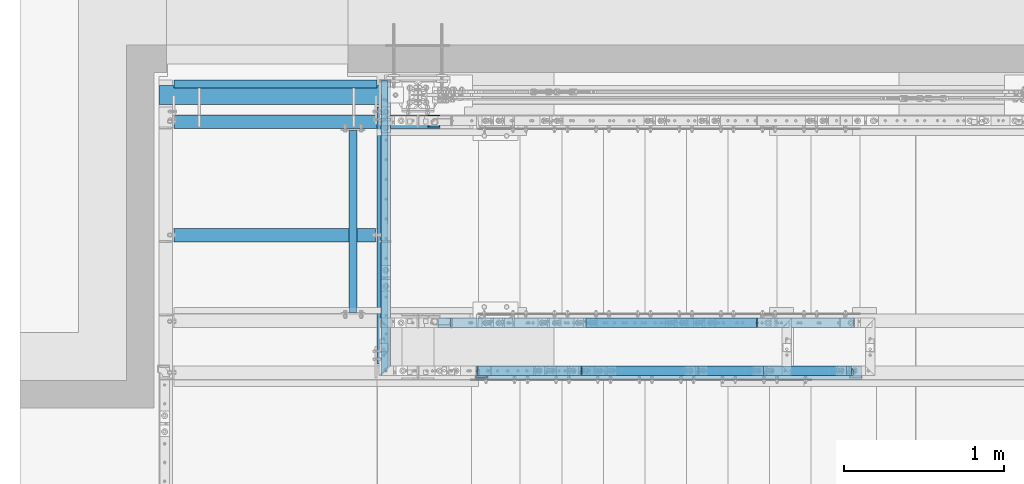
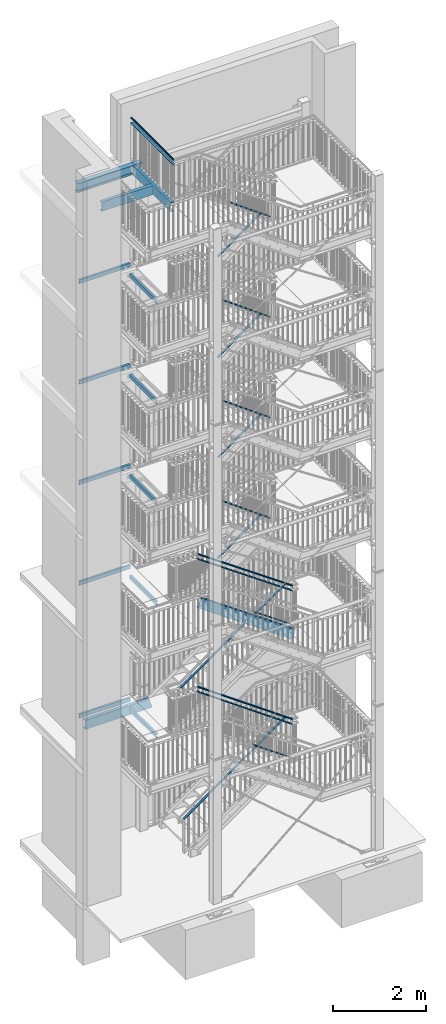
# One storey, part 126 of 831: 17 members, 16 beams, 43 openings.
"""IFC2X3 building model written with IfcOpenShell, lengths in millimetres."""

from ifc_helpers import new_model, entity, si_unit, converted_unit, frame, frame_2d, origin, origin_with_axes, origin_2d, origin_2d_with_axis, place, context, project, spatial, circle_curve, rectangle, circle, hollow_circle, i_section, u_section, outline, extrude, clip, halfspace, material, element, save


model = new_model("IFC2X3")

# Units and contexts
model_context = context("Model", 3, precision=1e-09, world=origin_with_axes())
ifc_project = project(units=[si_unit("LENGTHUNIT", "METRE", prefix="MILLI"), si_unit("AREAUNIT", "SQUARE_METRE"), si_unit("VOLUMEUNIT", "CUBIC_METRE"), converted_unit("PLANEANGLEUNIT", "DEGREE", entity("IfcPlaneAngleMeasure", 0.01745329), si_unit("PLANEANGLEUNIT", "RADIAN"), dimensions=[0, 0, 0, 0, 0, 0, 0])], contexts=[model_context])

# Site, building, storey
site_placement = place(None, origin_with_axes())
site = spatial("IfcSite", under=ifc_project, at=site_placement, Name="Site", CompositionType="ELEMENT")
building_placement = place(site_placement, origin_with_axes())
building = spatial("IfcBuilding", under=site, at=building_placement, Name="Struktur 1", CompositionType="ELEMENT")
storey_placement = place(building_placement, origin_with_axes())
storey = spatial("IfcBuildingStorey", under=building, at=storey_placement, Name="Default Storey", CompositionType="ELEMENT", Elevation=0.0)

# Beams
ifc_material = material(Name="S235JR")
for number, where, z_axis, x_axis, name in (
    (1, (4442.213402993, 6157.236971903, 15114.0), (0.0, -1.0, 0.0), (1.0, 0.0, 0.0), "Girder"),
    (2, (4442.213402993, 6157.236971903, 12479.0), (0.0, -1.0, 0.0), (1.0, 0.0, 0.0), "Girder"),
    (3, (4442.213402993, 6157.236971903, 9852.0), (0.0, -1.0, 0.0), (1.0, 0.0, 0.0), "Girder"),
    (4, (4442.213402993, 6157.236971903, 7220.0), (0.0, -1.0, 0.0), (1.0, 0.0, 0.0), "Girder"),
    (5, (4442.213402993, 6157.236971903, 3747.0), (0.0, -1.0, 0.0), (1.0, 0.0, 0.0), "Girder"),
):
    element("IfcBeam", number, at=place(None, frame(where, z_axis=z_axis, x_axis=x_axis)), inside=storey, material=ifc_material, Name=name, ObjectType="Girder", context=model_context, shape_type="SweptSolid", body=[
        extrude(u_section(Depth=100.0, FlangeWidth=50.0, WebThickness=6.0, FlangeThickness=8.5, FilletRadius=8.5, EdgeRadius=4.5, FlangeSlope=4.574, at=frame_2d((9.5, 0.0))), origin(), (0.0, 0.0, -1.0), 1139.0),
    ])
beam_1_placement = place(None, frame((4647.913402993, 5740.536971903, 18974.0), z_axis=(0.0, -1.0, 0.0), x_axis=(0.0, 0.0, -1.0)))
element("IfcBeam", 6, at=beam_1_placement, inside=storey, material=ifc_material, Name="Gel?nder", ObjectType="Gel?nder", context=model_context, shape_type="Clipping", body=[
    clip(extrude(hollow_circle(Radius=21.2, WallThickness=3.2, at=origin_2d()), origin(), (0.0, 0.0, -1.0), 1868.2), halfspace(frame((18974.0, -5215.425894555, 5173.024480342), z_axis=(0.0, -0.707106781, -0.707106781), x_axis=(0.0, -0.707106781, 0.707106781)), True)),
])
beam_2_placement = place(None, frame((4656.713402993, 5748.725345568, 18847.8), z_axis=(0.0, -1.0, 0.0), x_axis=(0.0, 0.0, -1.0)))
element("IfcBeam", 7, at=beam_2_placement, inside=storey, material=ifc_material, Name="Railing_Kneerail_Landing#1006", ObjectType="Railing_Kneerail_Landing#1006", context=model_context, shape_type="Clipping", body=[
    clip(extrude(rectangle(XDim=10.0, YDim=60.0, at=origin_2d()), origin(), (0.0, 0.0, -1.0), 1863.011626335), halfspace(frame((18847.8, -5224.225894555, 5181.212854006), z_axis=(0.0, -0.707106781, -0.707106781), x_axis=(0.0, -0.707106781, 0.707106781)), True)),
])

# Beam, openings
beam_3_placement = place(None, frame((3074.409632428, 7329.036971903, 3727.0), z_axis=(1.0, 0.0, 0.0), x_axis=(0.0, 1.0, 0.0)))
beam_3 = element("IfcBeam", 8, at=beam_3_placement, inside=storey, material=ifc_material, Name="BottomLanding#2", ObjectType="BottomLanding#2", context=model_context, shape_type="Clipping", body=[
    clip(clip(extrude(u_section(Depth=240.0, FlangeWidth=85.0, WebThickness=9.5, FlangeThickness=13.0, FilletRadius=13.0, EdgeRadius=6.5, FlangeSlope=4.574, at=frame_2d((20.2, 0.0))), origin(), (0.0, 0.0, 1.0), 2104.790555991), halfspace(frame((-7329.036971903, -3727.0, 257.304770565), z_axis=(0.0, 0.0, 1.0), x_axis=(1.0, 0.0, 0.0)), True)), halfspace(frame((-7329.036971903, -1962.281935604, 2504.118187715), z_axis=(0.0, -0.301609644, -0.953431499), x_axis=(-1.0, 0.0, 0.0)), True)),
])
opening_1_placement = place(beam_3_placement, frame((-12.3, 20.0, 1377.303770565), z_axis=(-1.0, 0.0, 0.0), x_axis=(0.0, 0.0, 1.0)))
element("IfcOpeningElement", 9, at=opening_1_placement, cuts=beam_3, ObjectType="Opening", context=model_context, shape_type="SweptSolid", body=[
    extrude(circle(Radius=7.001, at=frame_2d((50.0, 0.0), x_axis=(1.0, 0.0))), origin(), (0.0, 0.0, 1.0), 10.5),
])
opening_2_placement = place(beam_3_placement, frame((-12.3, 20.0, 1377.303770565), z_axis=(-1.0, 0.0, 0.0), x_axis=(0.0, 0.0, 1.0)))
element("IfcOpeningElement", 10, at=opening_2_placement, cuts=beam_3, ObjectType="Opening", context=model_context, shape_type="SweptSolid", body=[
    extrude(circle(Radius=7.001, at=frame_2d((-50.0, 0.0), x_axis=(1.0, 0.0))), origin(), (0.0, 0.0, 1.0), 10.5),
])
opening_3_placement = place(beam_3_placement, frame((27.7, 120.5, 1670.302770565), z_axis=(0.0, 1.0, 0.0), x_axis=(-1.0, 0.0, 0.0)))
element("IfcOpeningElement", 11, at=opening_3_placement, cuts=beam_3, ObjectType="Opening", context=model_context, shape_type="SweptSolid", body=[
    extrude(circle(Radius=7.001, at=frame_2d((0.0, 7.001), x_axis=(1.0, 0.0))), origin(), (0.0, 0.0, -1.0), 14.0),
])
opening_4_placement = place(beam_3_placement, frame((27.7, 120.5, 1570.302770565), z_axis=(0.0, 1.0, 0.0), x_axis=(-1.0, 0.0, 0.0)))
element("IfcOpeningElement", 12, at=opening_4_placement, cuts=beam_3, ObjectType="Opening", context=model_context, shape_type="SweptSolid", body=[
    extrude(circle(Radius=7.001, at=frame_2d((0.0, 7.001), x_axis=(1.0, 0.0))), origin(), (0.0, 0.0, -1.0), 14.0),
])
opening_5_placement = place(beam_3_placement, frame((22.7, -120.5, 1732.303770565), z_axis=(0.0, 1.0, 0.0), x_axis=(1.0, 0.0, 0.0)))
element("IfcOpeningElement", 13, at=opening_5_placement, cuts=beam_3, ObjectType="Opening", context=model_context, shape_type="SweptSolid", body=[
    extrude(circle(Radius=7.001, at=origin_2d_with_axis()), origin(), (0.0, 0.0, 1.0), 14.0),
])
opening_6_placement = place(beam_3_placement, frame((22.7, -120.5, 1832.303770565), z_axis=(0.0, 1.0, 0.0), x_axis=(1.0, 0.0, 0.0)))
element("IfcOpeningElement", 14, at=opening_6_placement, cuts=beam_3, ObjectType="Opening", context=model_context, shape_type="SweptSolid", body=[
    extrude(circle(Radius=7.001, at=origin_2d_with_axis()), origin(), (0.0, 0.0, 1.0), 14.0),
])

# Member, openings
member_1_placement = place(None, frame((7776.785634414, 5759.036971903, 5427.548742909), z_axis=(0.818063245, 0.0, -0.57512827), x_axis=(0.0, 1.0, 0.0)))
member_1 = element("IfcMember", 15, at=member_1_placement, inside=storey, material=ifc_material, Name="Stringer#2", ObjectType="Stringer#2", context=model_context, shape_type="Clipping", body=[
    clip(clip(extrude(u_section(Depth=240.0, FlangeWidth=85.0, WebThickness=9.5, FlangeThickness=13.0, FilletRadius=13.0, EdgeRadius=6.5, FlangeSlope=4.574, at=frame_2d((20.2, 0.0))), origin(), (0.0, 0.0, -1.0), 3379.180219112), halfspace(frame((-5759.036971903, -7233.811372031, 2066.929465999), z_axis=(0.0, -0.301609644, -0.953431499), x_axis=(-1.0, 0.0, 0.0)), True)), halfspace(frame((-5759.036971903, -8056.363400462, -533.275895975), z_axis=(0.0, 0.301609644, 0.953431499), x_axis=(1.0, 0.0, 0.0)), True)),
])
opening_7_placement = place(member_1_placement, frame((-22.8, -48.646056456, -1744.479436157), z_axis=(1.0, 0.0, 0.0), x_axis=(0.0, -0.57512827, -0.818063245)))
element("IfcOpeningElement", 16, at=opening_7_placement, cuts=member_1, ObjectType="Opening", context=model_context, shape_type="SweptSolid", body=[
    extrude(circle(Radius=7.001, at=origin_2d_with_axis()), origin(), (0.0, 0.0, 1.0), 10.5),
])
opening_8_placement = place(member_1_placement, frame((-22.8, -48.646056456, -3015.774786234), z_axis=(1.0, 0.0, 0.0), x_axis=(0.0, -0.57512827, -0.818063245)))
element("IfcOpeningElement", 17, at=opening_8_placement, cuts=member_1, ObjectType="Opening", context=model_context, shape_type="SweptSolid", body=[
    extrude(circle(Radius=7.001, at=origin_2d_with_axis()), origin(), (0.0, 0.0, 1.0), 10.5),
])
opening_9_placement = place(member_1_placement, frame((-22.8, -48.646056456, -2697.950948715), z_axis=(1.0, 0.0, 0.0), x_axis=(0.0, -0.57512827, -0.818063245)))
element("IfcOpeningElement", 18, at=opening_9_placement, cuts=member_1, ObjectType="Opening", context=model_context, shape_type="SweptSolid", body=[
    extrude(circle(Radius=7.001, at=origin_2d_with_axis()), origin(), (0.0, 0.0, 1.0), 10.5),
])
opening_10_placement = place(member_1_placement, frame((-22.8, 54.877032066, -1915.051889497), z_axis=(1.0, 0.0, 0.0), x_axis=(0.0, -0.57512827, -0.818063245)))
element("IfcOpeningElement", 19, at=opening_10_placement, cuts=member_1, ObjectType="Opening", context=model_context, shape_type="SweptSolid", body=[
    extrude(circle(Radius=7.001, at=origin_2d_with_axis()), origin(), (0.0, 0.0, 1.0), 10.5),
])
opening_11_placement = place(member_1_placement, frame((-22.8, -48.646056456, -1426.655598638), z_axis=(1.0, 0.0, 0.0), x_axis=(0.0, -0.57512827, -0.818063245)))
element("IfcOpeningElement", 20, at=opening_11_placement, cuts=member_1, ObjectType="Opening", context=model_context, shape_type="SweptSolid", body=[
    extrude(circle(Radius=7.001, at=origin_2d_with_axis()), origin(), (0.0, 0.0, 1.0), 10.5),
])
opening_12_placement = place(member_1_placement, frame((-22.8, 54.877032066, -2232.875727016), z_axis=(1.0, 0.0, 0.0), x_axis=(0.0, -0.57512827, -0.818063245)))
element("IfcOpeningElement", 21, at=opening_12_placement, cuts=member_1, ObjectType="Opening", context=model_context, shape_type="SweptSolid", body=[
    extrude(circle(Radius=7.001, at=origin_2d_with_axis()), origin(), (0.0, 0.0, 1.0), 10.5),
])
opening_13_placement = place(member_1_placement, frame((-22.8, 54.877032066, -2550.699564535), z_axis=(1.0, 0.0, 0.0), x_axis=(0.0, -0.57512827, -0.818063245)))
element("IfcOpeningElement", 22, at=opening_13_placement, cuts=member_1, ObjectType="Opening", context=model_context, shape_type="SweptSolid", body=[
    extrude(circle(Radius=7.001, at=origin_2d_with_axis()), origin(), (0.0, 0.0, 1.0), 10.5),
])
opening_14_placement = place(member_1_placement, frame((-22.8, -48.646056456, -2380.127111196), z_axis=(1.0, 0.0, 0.0), x_axis=(0.0, -0.57512827, -0.818063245)))
element("IfcOpeningElement", 23, at=opening_14_placement, cuts=member_1, ObjectType="Opening", context=model_context, shape_type="SweptSolid", body=[
    extrude(circle(Radius=7.001, at=origin_2d_with_axis()), origin(), (0.0, 0.0, 1.0), 10.5),
])
opening_15_placement = place(member_1_placement, frame((-22.8, -48.646056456, -2062.303273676), z_axis=(1.0, 0.0, 0.0), x_axis=(0.0, -0.57512827, -0.818063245)))
element("IfcOpeningElement", 24, at=opening_15_placement, cuts=member_1, ObjectType="Opening", context=model_context, shape_type="SweptSolid", body=[
    extrude(circle(Radius=7.001, at=origin_2d_with_axis()), origin(), (0.0, 0.0, 1.0), 10.5),
])
opening_16_placement = place(member_1_placement, frame((-22.8, 54.877032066, -961.580376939), z_axis=(1.0, 0.0, 0.0), x_axis=(0.0, -0.57512827, -0.818063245)))
element("IfcOpeningElement", 25, at=opening_16_placement, cuts=member_1, ObjectType="Opening", context=model_context, shape_type="SweptSolid", body=[
    extrude(circle(Radius=7.001, at=origin_2d_with_axis()), origin(), (0.0, 0.0, 1.0), 10.5),
])
opening_17_placement = place(member_1_placement, frame((-22.8, 54.877032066, -2868.523402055), z_axis=(1.0, 0.0, 0.0), x_axis=(0.0, -0.57512827, -0.818063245)))
element("IfcOpeningElement", 26, at=opening_17_placement, cuts=member_1, ObjectType="Opening", context=model_context, shape_type="SweptSolid", body=[
    extrude(circle(Radius=7.001, at=origin_2d_with_axis()), origin(), (0.0, 0.0, 1.0), 10.5),
])
opening_18_placement = place(member_1_placement, frame((-22.8, 54.877032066, -1279.404214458), z_axis=(1.0, 0.0, 0.0), x_axis=(0.0, -0.57512827, -0.818063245)))
element("IfcOpeningElement", 27, at=opening_18_placement, cuts=member_1, ObjectType="Opening", context=model_context, shape_type="SweptSolid", body=[
    extrude(circle(Radius=7.001, at=origin_2d_with_axis()), origin(), (0.0, 0.0, 1.0), 10.5),
])
opening_19_placement = place(member_1_placement, frame((-22.8, 54.877032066, -1597.228051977), z_axis=(1.0, 0.0, 0.0), x_axis=(0.0, -0.57512827, -0.818063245)))
element("IfcOpeningElement", 28, at=opening_19_placement, cuts=member_1, ObjectType="Opening", context=model_context, shape_type="SweptSolid", body=[
    extrude(circle(Radius=7.001, at=origin_2d_with_axis()), origin(), (0.0, 0.0, 1.0), 10.5),
])
opening_20_placement = place(member_1_placement, frame((-22.8, -48.646056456, -791.007923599), z_axis=(1.0, 0.0, 0.0), x_axis=(0.0, -0.57512827, -0.818063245)))
element("IfcOpeningElement", 29, at=opening_20_placement, cuts=member_1, ObjectType="Opening", context=model_context, shape_type="SweptSolid", body=[
    extrude(circle(Radius=7.001, at=origin_2d_with_axis()), origin(), (0.0, 0.0, 1.0), 10.5),
])
opening_21_placement = place(member_1_placement, frame((-22.8, -48.646056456, -1108.831761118), z_axis=(1.0, 0.0, 0.0), x_axis=(0.0, -0.57512827, -0.818063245)))
element("IfcOpeningElement", 30, at=opening_21_placement, cuts=member_1, ObjectType="Opening", context=model_context, shape_type="SweptSolid", body=[
    extrude(circle(Radius=7.001, at=origin_2d_with_axis()), origin(), (0.0, 0.0, 1.0), 10.5),
])
opening_22_placement = place(member_1_placement, frame((-22.8, 54.877032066, -643.756539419), z_axis=(1.0, 0.0, 0.0), x_axis=(0.0, -0.57512827, -0.818063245)))
element("IfcOpeningElement", 31, at=opening_22_placement, cuts=member_1, ObjectType="Opening", context=model_context, shape_type="SweptSolid", body=[
    extrude(circle(Radius=7.001, at=origin_2d_with_axis()), origin(), (0.0, 0.0, 1.0), 10.5),
])
opening_23_placement = place(member_1_placement, frame((32.7, 120.5, -422.7487057), z_axis=(0.0, 1.0, 0.0), x_axis=(-1.0, 0.0, 0.0)))
element("IfcOpeningElement", 32, at=opening_23_placement, cuts=member_1, ObjectType="Opening", context=model_context, shape_type="SweptSolid", body=[
    extrude(circle(Radius=7.001, at=frame_2d((0.0, -7.001), x_axis=(1.0, 0.0))), origin(), (0.0, 0.0, -1.0), 14.0),
])
opening_24_placement = place(member_1_placement, frame((32.7, 120.5, -322.7487057), z_axis=(0.0, 1.0, 0.0), x_axis=(-1.0, 0.0, 0.0)))
element("IfcOpeningElement", 33, at=opening_24_placement, cuts=member_1, ObjectType="Opening", context=model_context, shape_type="SweptSolid", body=[
    extrude(circle(Radius=7.001, at=frame_2d((0.0, -7.001), x_axis=(1.0, 0.0))), origin(), (0.0, 0.0, -1.0), 14.0),
])
opening_25_placement = place(member_1_placement, frame((32.7, 120.5, -1577.916522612), z_axis=(0.0, 1.0, 0.0), x_axis=(-1.0, 0.0, 0.0)))
element("IfcOpeningElement", 34, at=opening_25_placement, cuts=member_1, ObjectType="Opening", context=model_context, shape_type="SweptSolid", body=[
    extrude(circle(Radius=7.001, at=frame_2d((0.0, -7.001), x_axis=(1.0, 0.0))), origin(), (0.0, 0.0, -1.0), 14.0),
])
opening_26_placement = place(member_1_placement, frame((32.7, 120.5, -1477.916522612), z_axis=(0.0, 1.0, 0.0), x_axis=(-1.0, 0.0, 0.0)))
element("IfcOpeningElement", 35, at=opening_26_placement, cuts=member_1, ObjectType="Opening", context=model_context, shape_type="SweptSolid", body=[
    extrude(circle(Radius=7.001, at=frame_2d((0.0, -7.001), x_axis=(1.0, 0.0))), origin(), (0.0, 0.0, -1.0), 14.0),
])
opening_27_placement = place(member_1_placement, frame((32.7, 120.5, -2733.084339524), z_axis=(0.0, 1.0, 0.0), x_axis=(-1.0, 0.0, 0.0)))
element("IfcOpeningElement", 36, at=opening_27_placement, cuts=member_1, ObjectType="Opening", context=model_context, shape_type="SweptSolid", body=[
    extrude(circle(Radius=7.001, at=frame_2d((0.0, -7.001), x_axis=(1.0, 0.0))), origin(), (0.0, 0.0, -1.0), 14.0),
])
opening_28_placement = place(member_1_placement, frame((32.7, 120.5, -2633.084339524), z_axis=(0.0, 1.0, 0.0), x_axis=(-1.0, 0.0, 0.0)))
element("IfcOpeningElement", 37, at=opening_28_placement, cuts=member_1, ObjectType="Opening", context=model_context, shape_type="SweptSolid", body=[
    extrude(circle(Radius=7.001, at=frame_2d((0.0, -7.001), x_axis=(1.0, 0.0))), origin(), (0.0, 0.0, -1.0), 14.0),
])

# Beam, openings
beam_4_placement = place(None, frame((4624.013402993, 5836.736971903, 17713.999999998), z_axis=(0.0, -1.0, 0.0), x_axis=(1.0, 0.0, 0.0)))
beam_4 = element("IfcBeam", 38, at=beam_4_placement, inside=storey, material=ifc_material, Name="Girder", ObjectType="Girder", context=model_context, shape_type="SweptSolid", body=[
    extrude(u_section(Depth=240.0, FlangeWidth=85.0, WebThickness=9.5, FlangeThickness=13.0, FilletRadius=13.0, EdgeRadius=6.5, FlangeSlope=4.574, at=frame_2d((20.2, 0.0))), origin(), (0.0, 0.0, -1.0), 1605.0),
])
opening_29_placement = place(beam_4_placement, frame((-12.3, 50.000000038, -71.099), z_axis=(1.0, 0.0, 0.0), x_axis=(0.0, 1.0, 0.0)))
element("IfcOpeningElement", 39, at=opening_29_placement, cuts=beam_4, ObjectType="Opening", context=model_context, shape_type="SweptSolid", body=[
    extrude(circle(Radius=7.001, at=frame_2d((0.0, -7.001), x_axis=(1.0, 0.0))), origin(), (0.0, 0.0, -1.0), 10.5),
])
opening_30_placement = place(beam_4_placement, frame((-12.3, 50.000000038, -21.099), z_axis=(1.0, 0.0, 0.0), x_axis=(0.0, 1.0, 0.0)))
element("IfcOpeningElement", 40, at=opening_30_placement, cuts=beam_4, ObjectType="Opening", context=model_context, shape_type="SweptSolid", body=[
    extrude(circle(Radius=7.001, at=frame_2d((0.0, -7.001), x_axis=(1.0, 0.0))), origin(), (0.0, 0.0, -1.0), 10.5),
])
opening_31_placement = place(beam_4_placement, frame((-12.3, -49.999999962, -71.099), z_axis=(1.0, 0.0, 0.0), x_axis=(0.0, 1.0, 0.0)))
element("IfcOpeningElement", 41, at=opening_31_placement, cuts=beam_4, ObjectType="Opening", context=model_context, shape_type="SweptSolid", body=[
    extrude(circle(Radius=7.001, at=frame_2d((0.0, -7.001), x_axis=(1.0, 0.0))), origin(), (0.0, 0.0, -1.0), 10.5),
])
opening_32_placement = place(beam_4_placement, frame((-12.3, -49.999999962, -21.099), z_axis=(1.0, 0.0, 0.0), x_axis=(0.0, 1.0, 0.0)))
element("IfcOpeningElement", 42, at=opening_32_placement, cuts=beam_4, ObjectType="Opening", context=model_context, shape_type="SweptSolid", body=[
    extrude(circle(Radius=7.001, at=frame_2d((0.0, -7.001), x_axis=(1.0, 0.0))), origin(), (0.0, 0.0, -1.0), 10.5),
])
opening_33_placement = place(beam_4_placement, frame((-12.3, 3.8e-08, -1551.9), z_axis=(-1.0, 0.0, 0.0), x_axis=(0.0, 0.0, 1.0)))
element("IfcOpeningElement", 43, at=opening_33_placement, cuts=beam_4, ObjectType="Opening", context=model_context, shape_type="SweptSolid", body=[
    extrude(circle(Radius=7.001, at=frame_2d((25.0, 50.0), x_axis=(1.0, 0.0))), origin(), (0.0, 0.0, 1.0), 10.5),
])
opening_34_placement = place(beam_4_placement, frame((-12.3, 3.8e-08, -1551.9), z_axis=(-1.0, 0.0, 0.0), x_axis=(0.0, 0.0, 1.0)))
element("IfcOpeningElement", 44, at=opening_34_placement, cuts=beam_4, ObjectType="Opening", context=model_context, shape_type="SweptSolid", body=[
    extrude(circle(Radius=7.001, at=frame_2d((-25.0, 50.0), x_axis=(1.0, 0.0))), origin(), (0.0, 0.0, 1.0), 10.5),
])
opening_35_placement = place(beam_4_placement, frame((-12.3, 3.8e-08, -1551.9), z_axis=(-1.0, 0.0, 0.0), x_axis=(0.0, 0.0, 1.0)))
element("IfcOpeningElement", 45, at=opening_35_placement, cuts=beam_4, ObjectType="Opening", context=model_context, shape_type="SweptSolid", body=[
    extrude(circle(Radius=7.001, at=frame_2d((25.0, -50.0), x_axis=(1.0, 0.0))), origin(), (0.0, 0.0, 1.0), 10.5),
])
opening_36_placement = place(beam_4_placement, frame((-12.3, 3.8e-08, -1551.9), z_axis=(-1.0, 0.0, 0.0), x_axis=(0.0, 0.0, 1.0)))
element("IfcOpeningElement", 46, at=opening_36_placement, cuts=beam_4, ObjectType="Opening", context=model_context, shape_type="SweptSolid", body=[
    extrude(circle(Radius=7.001, at=frame_2d((-25.0, -50.0), x_axis=(1.0, 0.0))), origin(), (0.0, 0.0, 1.0), 10.5),
])
opening_37_placement = place(beam_4_placement, frame((32.7, 120.5, -1567.999), z_axis=(0.0, 1.0, 0.0), x_axis=(-1.0, 0.0, 0.0)))
element("IfcOpeningElement", 47, at=opening_37_placement, cuts=beam_4, ObjectType="Opening", context=model_context, shape_type="SweptSolid", body=[
    extrude(circle(Radius=7.001, at=frame_2d((0.0, -7.001), x_axis=(1.0, 0.0))), origin(), (0.0, 0.0, -1.0), 14.0),
])
opening_38_placement = place(beam_4_placement, frame((32.7, 120.5, -1467.999), z_axis=(0.0, 1.0, 0.0), x_axis=(-1.0, 0.0, 0.0)))
element("IfcOpeningElement", 48, at=opening_38_placement, cuts=beam_4, ObjectType="Opening", context=model_context, shape_type="SweptSolid", body=[
    extrude(circle(Radius=7.001, at=frame_2d((0.0, -7.001), x_axis=(1.0, 0.0))), origin(), (0.0, 0.0, -1.0), 14.0),
])
opening_39_placement = place(beam_4_placement, frame((32.7, 120.5, -576.74875), z_axis=(0.0, 1.0, 0.0), x_axis=(-1.0, 0.0, 0.0)))
element("IfcOpeningElement", 49, at=opening_39_placement, cuts=beam_4, ObjectType="Opening", context=model_context, shape_type="SweptSolid", body=[
    extrude(circle(Radius=7.001, at=frame_2d((0.0, -7.001), x_axis=(1.0, 0.0))), origin(), (0.0, 0.0, -1.0), 14.0),
])
opening_40_placement = place(beam_4_placement, frame((32.7, 120.5, -476.74875), z_axis=(0.0, 1.0, 0.0), x_axis=(-1.0, 0.0, 0.0)))
element("IfcOpeningElement", 50, at=opening_40_placement, cuts=beam_4, ObjectType="Opening", context=model_context, shape_type="SweptSolid", body=[
    extrude(circle(Radius=7.001, at=frame_2d((0.0, -7.001), x_axis=(1.0, 0.0))), origin(), (0.0, 0.0, -1.0), 14.0),
])
opening_41_placement = place(beam_4_placement, frame((-22.8, 50.999, -805.0), z_axis=(-1.0, 0.0, 0.0), x_axis=(0.0, -1.0, 0.0)))
element("IfcOpeningElement", 51, at=opening_41_placement, cuts=beam_4, ObjectType="Opening", context=model_context, shape_type="SweptSolid", body=[
    extrude(circle(Radius=9.001, at=frame_2d((-9.001, 0.0), x_axis=(1.0, 0.0))), origin(), (0.0, 0.0, -1.0), 10.5),
])
opening_42_placement = place(beam_4_placement, frame((-22.8, -69.001, -805.0), z_axis=(-1.0, 0.0, 0.0), x_axis=(0.0, -1.0, 0.0)))
element("IfcOpeningElement", 52, at=opening_42_placement, cuts=beam_4, ObjectType="Opening", context=model_context, shape_type="SweptSolid", body=[
    extrude(circle(Radius=9.001, at=frame_2d((-9.001, 0.0), x_axis=(1.0, 0.0))), origin(), (0.0, 0.0, -1.0), 10.5),
])

# Beam, opening
beam_5_placement = place(None, frame((4990.877481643, 7516.736971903, 17713.999999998), z_axis=(-1.0, 0.0, 0.0), x_axis=(0.0, 1.0, 0.0)))
beam_5 = element("IfcBeam", 53, at=beam_5_placement, inside=storey, material=ifc_material, Name="Girder", ObjectType="Girder", context=model_context, shape_type="Clipping", body=[
    clip(extrude(i_section(OverallWidth=120.0, OverallDepth=240.0, WebThickness=6.2, FlangeThickness=9.8, FilletRadius=15.0, at=origin_2d()), origin(), (0.0, 0.0, 1.0), 1754.16407865), halfspace(frame((-7516.736971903, 17713.999999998, 157.415078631), z_axis=(0.0, 0.0, 1.0), x_axis=(-1.0, 0.0, 0.0)), True)),
])
opening_43_placement = place(beam_5_placement, frame((-160.1, -55.000000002, 309.165078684), z_axis=(-1.0, 0.0, 0.0), x_axis=(0.0, -1.0, 0.0)))
element("IfcOpeningElement", 54, at=opening_43_placement, cuts=beam_5, ObjectType="Opening", context=model_context, shape_type="SweptSolid", body=[
    extrude(outline(circle_curve(frame_2d((0.0, -25.001), x_axis=(1.0, 0.0)), 25.001)), origin(), (0.0, 0.0, -1.0), 320.2),
])

# Beams
beam_6_placement = place(None, frame((4849.017173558, 6619.036971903, 17713.999999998), z_axis=(1.0, 0.0, 0.0), x_axis=(0.0, 1.0, 0.0)))
element("IfcBeam", 55, at=beam_6_placement, inside=storey, material=ifc_material, Name="Girder", ObjectType="Girder", context=model_context, shape_type="Clipping", body=[
    clip(clip(extrude(u_section(Depth=240.0, FlangeWidth=85.0, WebThickness=9.5, FlangeThickness=13.0, FilletRadius=13.0, EdgeRadius=6.5, FlangeSlope=4.574, at=frame_2d((20.2, 0.0))), origin(), (0.0, 0.0, -1.0), 1774.60754113), halfspace(frame((-6619.036971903, -17713.999999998, -1517.302770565), z_axis=(0.0, 0.0, 1.0), x_axis=(1.0, 0.0, 0.0)), True)), halfspace(frame((-6619.036971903, -17713.999999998, -257.304770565), z_axis=(0.0, 0.0, -1.0), x_axis=(-1.0, 0.0, 0.0)), True)),
])
for number, where, z_axis, x_axis, name in (
    (56, (4601.713402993, 7577.236971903, 3797.0), (1.0, 0.0, 0.0), (0.0, 1.0, 0.0), "TopLanding#1"),
    (57, (4601.713402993, 7577.236971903, 7270.0), (1.0, 0.0, 0.0), (0.0, 1.0, 0.0), "TopLanding#1"),
    (58, (4601.713402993, 7577.236971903, 9902.0), (1.0, 0.0, 0.0), (0.0, 1.0, 0.0), "TopLanding#1"),
    (59, (4601.713402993, 7577.236971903, 12529.0), (1.0, 0.0, 0.0), (0.0, 1.0, 0.0), "TopLanding#1"),
    (60, (4601.713402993, 7577.236971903, 15164.0), (1.0, 0.0, 0.0), (0.0, 1.0, 0.0), "TopLanding#1"),
):
    element("IfcBeam", number, at=place(None, frame(where, z_axis=z_axis, x_axis=x_axis)), inside=storey, material=ifc_material, Name=name, ObjectType="TopLanding#1", context=model_context, shape_type="SweptSolid", body=[
        extrude(u_section(Depth=100.0, FlangeWidth=50.0, WebThickness=6.0, FlangeThickness=8.5, FilletRadius=8.5, EdgeRadius=4.5, FlangeSlope=4.574, at=frame_2d((9.5, 0.0))), origin(), (0.0, 0.0, -1.0), 1270.0),
    ])

# Members
member_2_placement = place(None, frame((5909.643631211, 6091.736971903, 7926.792537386), z_axis=(-0.810350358, 0.0, -0.585945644), x_axis=(0.585945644, 0.0, -0.810350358)))
element("IfcMember", 61, at=member_2_placement, inside=storey, material=ifc_material, Name="Railing_Kneerail_Stair#3", ObjectType="Railing_Kneerail_Stair#3", context=model_context, shape_type="SweptSolid", body=[
    extrude(rectangle(XDim=10.0, YDim=60.0, at=origin_2d()), origin(), (0.0, 0.0, -1.0), 1319.677384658),
])
member_3_placement = place(None, frame((5909.639972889, 6091.736971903, 10557.813258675), z_axis=(-0.810878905, 0.0, -0.585213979), x_axis=(0.585213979, 0.0, -0.810878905)))
element("IfcMember", 62, at=member_3_placement, inside=storey, material=ifc_material, Name="Railing_Kneerail_Stair#3", ObjectType="Railing_Kneerail_Stair#3", context=model_context, shape_type="SweptSolid", body=[
    extrude(rectangle(XDim=10.0, YDim=60.0, at=origin_2d()), origin(), (0.0, 0.0, -1.0), 1318.733255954),
])
member_4_placement = place(None, frame((5909.645822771, 6091.736971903, 13186.380138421), z_axis=(-0.810033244, 0.0, -0.586383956), x_axis=(0.586383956, 0.0, -0.810033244)))
element("IfcMember", 63, at=member_4_placement, inside=storey, material=ifc_material, Name="Railing_Kneerail_Stair#3", ObjectType="Railing_Kneerail_Stair#3", context=model_context, shape_type="SweptSolid", body=[
    extrude(rectangle(XDim=10.0, YDim=60.0, at=origin_2d()), origin(), (0.0, 0.0, -1.0), 1320.244219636),
])
member_5_placement = place(None, frame((5909.634839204, 6091.736971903, 15818.442386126), z_axis=(-0.811618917, 0.0, -0.584187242), x_axis=(0.584187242, 0.0, -0.811618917)))
element("IfcMember", 64, at=member_5_placement, inside=storey, material=ifc_material, Name="Railing_Kneerail_Stair#3", ObjectType="Railing_Kneerail_Stair#3", context=model_context, shape_type="SweptSolid", body=[
    extrude(rectangle(XDim=10.0, YDim=60.0, at=origin_2d()), origin(), (0.0, 0.0, -1.0), 1317.412728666),
])
member_6_placement = place(None, frame((7602.354363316, 5782.936971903, 3302.79772078), z_axis=(0.814635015, 0.0, -0.579973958), x_axis=(-0.579973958, 0.0, -0.814635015)))
element("IfcMember", 65, at=member_6_placement, inside=storey, material=ifc_material, Name="Gel?nder", ObjectType="Gel?nder", context=model_context, shape_type="Clipping", body=[
    clip(clip(extrude(hollow_circle(Radius=21.2, WallThickness=3.2, at=origin_2d()), origin(), (0.0, 0.0, -1.0), 2935.40281845), halfspace(frame((5210.397729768, -5782.936971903, 1633.814350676), z_axis=(0.304437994, 0.0, -0.952532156), x_axis=(0.0, -1.0, 0.0)), True)), halfspace(frame((6043.370805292, -5782.936971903, -972.409756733), z_axis=(-0.304437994, 0.0, 0.952532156), x_axis=(0.0, 1.0, 0.0)), True)),
])
member_7_placement = place(None, frame((7536.314533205, 5791.736971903, 2329.604670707), z_axis=(0.814635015, 0.0, -0.579973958), x_axis=(-0.579973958, 0.0, -0.814635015)))
element("IfcMember", 66, at=member_7_placement, inside=storey, material=ifc_material, Name="Railing_Kneerail_Stair#2", ObjectType="Railing_Kneerail_Stair#2", context=model_context, shape_type="SweptSolid", body=[
    extrude(rectangle(XDim=10.0, YDim=60.0, at=origin_2d()), origin(), (0.0, 0.0, -1.0), 1134.496524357),
])
member_8_placement = place(None, frame((7602.437980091, 5782.936971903, 6796.809421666), z_axis=(0.818063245, 0.0, -0.57512827), x_axis=(-0.57512827, 0.0, -0.818063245)))
element("IfcMember", 67, at=member_8_placement, inside=storey, material=ifc_material, Name="Gel?nder", ObjectType="Gel?nder", context=model_context, shape_type="Clipping", body=[
    clip(clip(extrude(hollow_circle(Radius=21.2, WallThickness=3.2, at=origin_2d()), origin(), (0.0, 0.0, -1.0), 2923.30595161), halfspace(frame((9196.298185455, -5782.936971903, 17.308609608), z_axis=(-0.301609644, 0.0, 0.953431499), x_axis=(0.0, 1.0, 0.0)), True)), halfspace(frame((8373.746157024, -5782.936971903, 2617.513971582), z_axis=(0.301609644, 0.0, -0.953431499), x_axis=(0.0, -1.0, 0.0)), True)),
])
member_9_placement = place(None, frame((7536.338761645, 5791.736971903, 5822.735540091), z_axis=(0.818063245, 0.0, -0.57512827), x_axis=(-0.57512827, 0.0, -0.818063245)))
element("IfcMember", 68, at=member_9_placement, inside=storey, material=ifc_material, Name="Railing_Kneerail_Stair#2", ObjectType="Railing_Kneerail_Stair#2", context=model_context, shape_type="SweptSolid", body=[
    extrude(rectangle(XDim=10.0, YDim=60.0, at=origin_2d()), origin(), (0.0, 0.0, -1.0), 1129.801461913),
])
member_10_placement = place(None, frame((7016.284674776, 5791.736971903, 8785.445298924), z_axis=(0.810350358, 0.0, -0.585945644), x_axis=(-0.585945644, 0.0, -0.810350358)))
element("IfcMember", 69, at=member_10_placement, inside=storey, material=ifc_material, Name="Railing_Kneerail_Stair#2", ObjectType="Railing_Kneerail_Stair#2", context=model_context, shape_type="SweptSolid", body=[
    extrude(rectangle(XDim=10.0, YDim=60.0, at=origin_2d()), origin(), (0.0, 0.0, -1.0), 1402.653842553),
])
member_11_placement = place(None, frame((7016.288333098, 5791.736971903, 11414.834841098), z_axis=(0.810878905, 0.0, -0.585213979), x_axis=(-0.585213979, 0.0, -0.810878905)))
element("IfcMember", 70, at=member_11_placement, inside=storey, material=ifc_material, Name="Railing_Kneerail_Stair#2", ObjectType="Railing_Kneerail_Stair#2", context=model_context, shape_type="SweptSolid", body=[
    extrude(rectangle(XDim=10.0, YDim=60.0, at=origin_2d()), origin(), (0.0, 0.0, -1.0), 1401.748587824),
])
member_12_placement = place(None, frame((7016.282483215, 5791.736971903, 14046.011607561), z_axis=(0.810033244, 0.0, -0.586383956), x_axis=(-0.586383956, 0.0, -0.810033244)))
element("IfcMember", 71, at=member_12_placement, inside=storey, material=ifc_material, Name="Railing_Kneerail_Stair#2", ObjectType="Railing_Kneerail_Stair#2", context=model_context, shape_type="SweptSolid", body=[
    extrude(rectangle(XDim=10.0, YDim=60.0, at=origin_2d()), origin(), (0.0, 0.0, -1.0), 1403.197546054),
])
member_13_placement = place(None, frame((7016.293466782, 5791.736971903, 16673.180317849), z_axis=(0.811618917, 0.0, -0.584187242), x_axis=(-0.584187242, 0.0, -0.811618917)))
element("IfcMember", 72, at=member_13_placement, inside=storey, material=ifc_material, Name="Railing_Kneerail_Stair#2", ObjectType="Railing_Kneerail_Stair#2", context=model_context, shape_type="SweptSolid", body=[
    extrude(rectangle(XDim=10.0, YDim=60.0, at=origin_2d()), origin(), (0.0, 0.0, -1.0), 1195.645342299),
])
member_14_placement = place(None, frame((7567.131328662, 5791.736971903, 6689.604420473), z_axis=(0.818063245, 0.0, -0.57512827), x_axis=(-0.57512827, 0.0, -0.818063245)))
element("IfcMember", 73, at=member_14_placement, inside=storey, material=ifc_material, Name="Railing_Kneerail_Stair#1004", ObjectType="Railing_Kneerail_Stair#1004", context=model_context, shape_type="SweptSolid", body=[
    extrude(rectangle(XDim=10.0, YDim=60.0, at=origin_2d()), origin(), (0.0, 0.0, -1.0), 2857.25112589),
])
member_15_placement = place(None, frame((4986.295477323, 6091.736971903, 4861.709683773), z_axis=(-0.818063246, 0.0, -0.575128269), x_axis=(0.575128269, 0.0, -0.818063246)))
element("IfcMember", 74, at=member_15_placement, inside=storey, material=ifc_material, Name="Railing_Kneerail_Stair#1004", ObjectType="Railing_Kneerail_Stair#1004", context=model_context, shape_type="SweptSolid", body=[
    extrude(rectangle(XDim=10.0, YDim=60.0, at=origin_2d()), origin(), (0.0, 0.0, -1.0), 3175.074963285),
])
member_16_placement = place(None, frame((7567.037819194, 5791.736971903, 3195.779456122), z_axis=(0.814635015, 0.0, -0.579973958), x_axis=(-0.579973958, 0.0, -0.814635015)))
element("IfcMember", 75, at=member_16_placement, inside=storey, material=ifc_material, Name="Railing_Kneerail_Stair#1004", ObjectType="Railing_Kneerail_Stair#1004", context=model_context, shape_type="SweptSolid", body=[
    extrude(rectangle(XDim=10.0, YDim=60.0, at=origin_2d()), origin(), (0.0, 0.0, -1.0), 2869.255933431),
])
member_17_placement = place(None, frame((5064.778509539, 6091.736971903, 1400.5357212), z_axis=(-0.814635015, 0.0, -0.579973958), x_axis=(0.579973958, 0.0, -0.814635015)))
element("IfcMember", 76, at=member_17_placement, inside=storey, material=ifc_material, Name="Railing_Kneerail_Stair#1000", ObjectType="Railing_Kneerail_Stair#1000", context=model_context, shape_type="SweptSolid", body=[
    extrude(rectangle(XDim=10.0, YDim=60.0, at=origin_2d()), origin(), (0.0, 0.0, -1.0), 3092.190712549),
])

save(model, "model.ifc")
